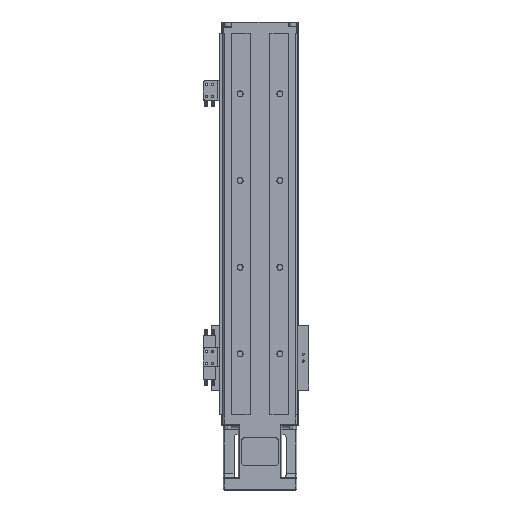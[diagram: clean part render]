
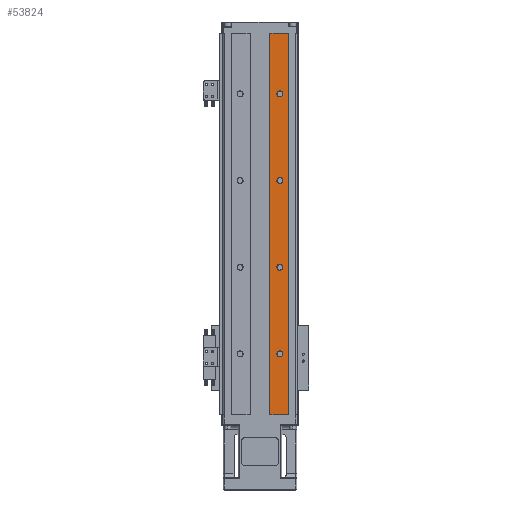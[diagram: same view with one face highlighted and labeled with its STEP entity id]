
A CAD part, front view. The second image highlights one B-rep face of the part: STEP entity #53824.
In plain terms, the highlighted planar face has unit normal (0, -1, 0).
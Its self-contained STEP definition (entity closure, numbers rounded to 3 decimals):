
#190 = EDGE_LOOP ( 'NONE', ( #40279, #7657 ) ) ;
#696 = DIRECTION ( 'NONE',  ( 0., 1., 0. ) ) ;
#1020 = ORIENTED_EDGE ( 'NONE', *, *, #42450, .T. ) ;
#1735 = DIRECTION ( 'NONE',  ( 0., 1., 0. ) ) ;
#2080 = ORIENTED_EDGE ( 'NONE', *, *, #11456, .T. ) ;
#2849 = EDGE_CURVE ( 'NONE', #44453, #31679, #37717, .T. ) ;
#3778 = ORIENTED_EDGE ( 'NONE', *, *, #41550, .F. ) ;
#4138 = DIRECTION ( 'NONE',  ( 0., 0., -1. ) ) ;
#5395 = CARTESIAN_POINT ( 'NONE',  ( 23., 0., 266.5 ) ) ;
#5921 = VERTEX_POINT ( 'NONE', #7602 ) ;
#6159 = FACE_BOUND ( 'NONE', #190, .T. ) ;
#6386 = VERTEX_POINT ( 'NONE', #18801 ) ;
#6443 = DIRECTION ( 'NONE',  ( 0., 0., -1. ) ) ;
#6844 = FACE_BOUND ( 'NONE', #50730, .T. ) ;
#7602 = CARTESIAN_POINT ( 'NONE',  ( 23., 0., 166.5 ) ) ;
#7657 = ORIENTED_EDGE ( 'NONE', *, *, #46913, .T. ) ;
#7935 = VERTEX_POINT ( 'NONE', #31000 ) ;
#8077 = DIRECTION ( 'NONE',  ( 0., 0., -1. ) ) ;
#8248 = CARTESIAN_POINT ( 'NONE',  ( 23., 0., 170. ) ) ;
#8683 = ORIENTED_EDGE ( 'NONE', *, *, #39996, .T. ) ;
#10448 = DIRECTION ( 'NONE',  ( 0., 1., 0. ) ) ;
#11456 = EDGE_CURVE ( 'NONE', #7935, #40884, #47916, .T. ) ;
#11561 = LINE ( 'NONE', #24531, #12910 ) ;
#12121 = CARTESIAN_POINT ( 'NONE',  ( 23., 0., 366.5 ) ) ;
#12170 = CARTESIAN_POINT ( 'NONE',  ( 23., 0., 270. ) ) ;
#12245 = CARTESIAN_POINT ( 'NONE',  ( 23., 0., 273.5 ) ) ;
#12910 = VECTOR ( 'NONE', #33365, 1000. ) ;
#13509 = CARTESIAN_POINT ( 'NONE',  ( 11.5, 0., 0. ) ) ;
#13791 = EDGE_CURVE ( 'NONE', #7935, #38729, #28622, .T. ) ;
#15071 = VERTEX_POINT ( 'NONE', #21497 ) ;
#15156 = CIRCLE ( 'NONE', #48351, 3.5 ) ;
#16068 = AXIS2_PLACEMENT_3D ( 'NONE', #34561, #696, #30439 ) ;
#16683 = VERTEX_POINT ( 'NONE', #12121 ) ;
#17631 = AXIS2_PLACEMENT_3D ( 'NONE', #42048, #33427, #50737 ) ;
#18801 = CARTESIAN_POINT ( 'NONE',  ( 23., 0., 373.5 ) ) ;
#18940 = DIRECTION ( 'NONE',  ( 0., 0., -1. ) ) ;
#19474 = VECTOR ( 'NONE', #37135, 1000. ) ;
#19522 = EDGE_LOOP ( 'NONE', ( #36021, #22943, #2080, #3778 ) ) ;
#21476 = ORIENTED_EDGE ( 'NONE', *, *, #26911, .T. ) ;
#21497 = CARTESIAN_POINT ( 'NONE',  ( 23., 0., 66.5 ) ) ;
#21816 = CIRCLE ( 'NONE', #41397, 3.5 ) ;
#22943 = ORIENTED_EDGE ( 'NONE', *, *, #13791, .F. ) ;
#23399 = DIRECTION ( 'NONE',  ( 0., 1., 0. ) ) ;
#24531 = CARTESIAN_POINT ( 'NONE',  ( 11.5, 0., 440. ) ) ;
#24585 = ORIENTED_EDGE ( 'NONE', *, *, #27393, .T. ) ;
#25125 = DIRECTION ( 'NONE',  ( 0., 0., -1. ) ) ;
#26911 = EDGE_CURVE ( 'NONE', #6386, #16683, #48086, .T. ) ;
#27164 = AXIS2_PLACEMENT_3D ( 'NONE', #50594, #55113, #8077 ) ;
#27393 = EDGE_CURVE ( 'NONE', #16683, #6386, #21816, .T. ) ;
#28622 = LINE ( 'NONE', #48822, #42021 ) ;
#29291 = CIRCLE ( 'NONE', #35504, 3.5 ) ;
#29784 = EDGE_LOOP ( 'NONE', ( #36616, #8683 ) ) ;
#29932 = CARTESIAN_POINT ( 'NONE',  ( 43., 0., 440. ) ) ;
#30439 = DIRECTION ( 'NONE',  ( 0., 0., -1. ) ) ;
#30685 = DIRECTION ( 'NONE',  ( -1., 0., 0. ) ) ;
#31000 = CARTESIAN_POINT ( 'NONE',  ( 32.5, 0., 440. ) ) ;
#31484 = DIRECTION ( 'NONE',  ( 0., 0., -1. ) ) ;
#31670 = CARTESIAN_POINT ( 'NONE',  ( 23., 0., 370. ) ) ;
#31679 = VERTEX_POINT ( 'NONE', #12245 ) ;
#31752 = VERTEX_POINT ( 'NONE', #52113 ) ;
#33242 = CARTESIAN_POINT ( 'NONE',  ( 11.5, 0., 440. ) ) ;
#33365 = DIRECTION ( 'NONE',  ( 0., 0., 1. ) ) ;
#33427 = DIRECTION ( 'NONE',  ( 0., 1., 0. ) ) ;
#34561 = CARTESIAN_POINT ( 'NONE',  ( 23., 0., 270. ) ) ;
#35296 = AXIS2_PLACEMENT_3D ( 'NONE', #36893, #49859, #6443 ) ;
#35504 = AXIS2_PLACEMENT_3D ( 'NONE', #48979, #23399, #53681 ) ;
#36021 = ORIENTED_EDGE ( 'NONE', *, *, #45172, .F. ) ;
#36224 = EDGE_CURVE ( 'NONE', #5921, #54625, #15156, .T. ) ;
#36478 = VECTOR ( 'NONE', #30685, 1000. ) ;
#36616 = ORIENTED_EDGE ( 'NONE', *, *, #2849, .T. ) ;
#36717 = CIRCLE ( 'NONE', #27164, 3.5 ) ;
#36893 = CARTESIAN_POINT ( 'NONE',  ( 43., 0., 440. ) ) ;
#37135 = DIRECTION ( 'NONE',  ( -1., 0., 0. ) ) ;
#37717 = CIRCLE ( 'NONE', #38564, 3.5 ) ;
#37962 = DIRECTION ( 'NONE',  ( 0., 1., 0. ) ) ;
#38564 = AXIS2_PLACEMENT_3D ( 'NONE', #12170, #50898, #25125 ) ;
#38729 = VERTEX_POINT ( 'NONE', #49757 ) ;
#38939 = EDGE_CURVE ( 'NONE', #15071, #31752, #29291, .T. ) ;
#39996 = EDGE_CURVE ( 'NONE', #31679, #44453, #54076, .T. ) ;
#40279 = ORIENTED_EDGE ( 'NONE', *, *, #38939, .T. ) ;
#40884 = VERTEX_POINT ( 'NONE', #33242 ) ;
#41397 = AXIS2_PLACEMENT_3D ( 'NONE', #31670, #1735, #31484 ) ;
#41550 = EDGE_CURVE ( 'NONE', #42597, #40884, #11561, .T. ) ;
#42021 = VECTOR ( 'NONE', #18940, 1000. ) ;
#42048 = CARTESIAN_POINT ( 'NONE',  ( 23., 0., 170. ) ) ;
#42214 = ORIENTED_EDGE ( 'NONE', *, *, #36224, .T. ) ;
#42450 = EDGE_CURVE ( 'NONE', #54625, #5921, #51878, .T. ) ;
#42597 = VERTEX_POINT ( 'NONE', #13509 ) ;
#43148 = CARTESIAN_POINT ( 'NONE',  ( 23., 0., 173.5 ) ) ;
#43200 = FACE_BOUND ( 'NONE', #50515, .T. ) ;
#44300 = AXIS2_PLACEMENT_3D ( 'NONE', #53327, #10448, #53497 ) ;
#44329 = LINE ( 'NONE', #45227, #19474 ) ;
#44453 = VERTEX_POINT ( 'NONE', #5395 ) ;
#45172 = EDGE_CURVE ( 'NONE', #38729, #42597, #44329, .T. ) ;
#45227 = CARTESIAN_POINT ( 'NONE',  ( 43., 0., 0. ) ) ;
#46913 = EDGE_CURVE ( 'NONE', #31752, #15071, #36717, .T. ) ;
#47916 = LINE ( 'NONE', #29932, #36478 ) ;
#48086 = CIRCLE ( 'NONE', #44300, 3.5 ) ;
#48351 = AXIS2_PLACEMENT_3D ( 'NONE', #8248, #37962, #4138 ) ;
#48822 = CARTESIAN_POINT ( 'NONE',  ( 32.5, 0., 440. ) ) ;
#48979 = CARTESIAN_POINT ( 'NONE',  ( 23., 0., 70. ) ) ;
#49757 = CARTESIAN_POINT ( 'NONE',  ( 32.5, 0., 0. ) ) ;
#49859 = DIRECTION ( 'NONE',  ( 0., -1., 0. ) ) ;
#49900 = FACE_BOUND ( 'NONE', #29784, .T. ) ;
#50515 = EDGE_LOOP ( 'NONE', ( #42214, #1020 ) ) ;
#50594 = CARTESIAN_POINT ( 'NONE',  ( 23., 0., 70. ) ) ;
#50730 = EDGE_LOOP ( 'NONE', ( #24585, #21476 ) ) ;
#50737 = DIRECTION ( 'NONE',  ( 0., 0., -1. ) ) ;
#50898 = DIRECTION ( 'NONE',  ( 0., 1., 0. ) ) ;
#51878 = CIRCLE ( 'NONE', #17631, 3.5 ) ;
#52113 = CARTESIAN_POINT ( 'NONE',  ( 23., 0., 73.5 ) ) ;
#53327 = CARTESIAN_POINT ( 'NONE',  ( 23., 0., 370. ) ) ;
#53497 = DIRECTION ( 'NONE',  ( 0., 0., -1. ) ) ;
#53664 = PLANE ( 'NONE',  #35296 ) ;
#53681 = DIRECTION ( 'NONE',  ( 0., 0., -1. ) ) ;
#53824 = ADVANCED_FACE ( 'NONE', ( #55316, #6844, #49900, #43200, #6159 ), #53664, .T. ) ;
#54076 = CIRCLE ( 'NONE', #16068, 3.5 ) ;
#54625 = VERTEX_POINT ( 'NONE', #43148 ) ;
#55113 = DIRECTION ( 'NONE',  ( 0., 1., 0. ) ) ;
#55316 = FACE_OUTER_BOUND ( 'NONE', #19522, .T. ) ;
